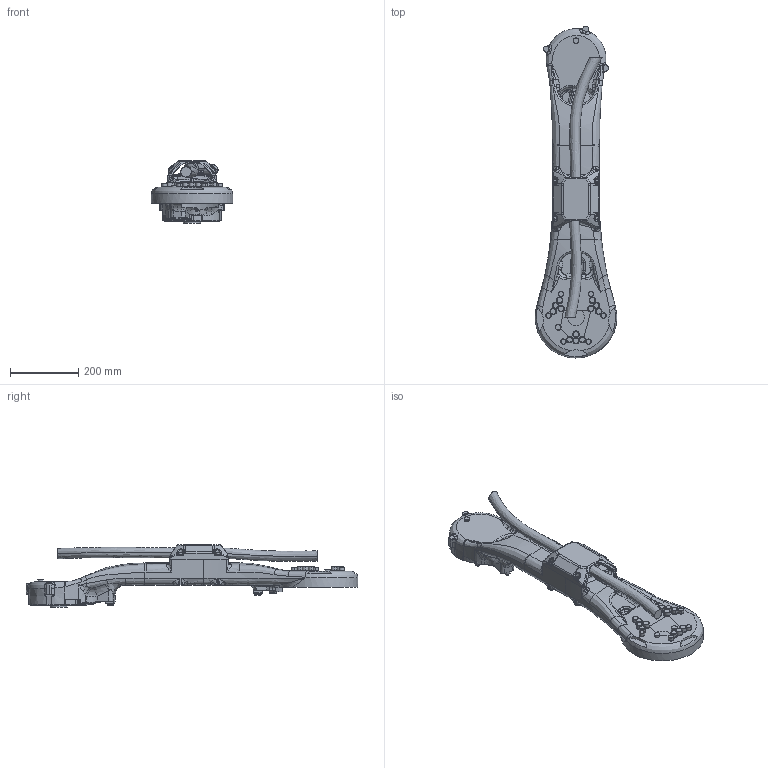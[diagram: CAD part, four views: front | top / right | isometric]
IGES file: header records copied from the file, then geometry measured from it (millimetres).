
Start section:  PTC IGES file: gp25-c00_l-axis.igs
Global section: file name: gp25-c00_l-axis.igs; native system: Creo Parametric by Parametric Technology Corporation; preprocessor: 2015030; author: ip-naka; organization: Unknown; date: 20180604.190533; units: millimetre
Bounding box: 239.89 x 975.79 x 183 mm (x, y, z)
Volume: 7450477.9 mm3; surface area: 735028.1 mm2
Topology: 1 solids, 2 shells, 1375 faces, 3323 edges, 2028 vertices
Faces by surface type: bspline 746, revolution 629
